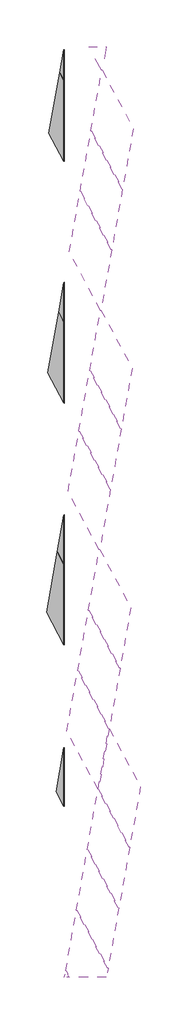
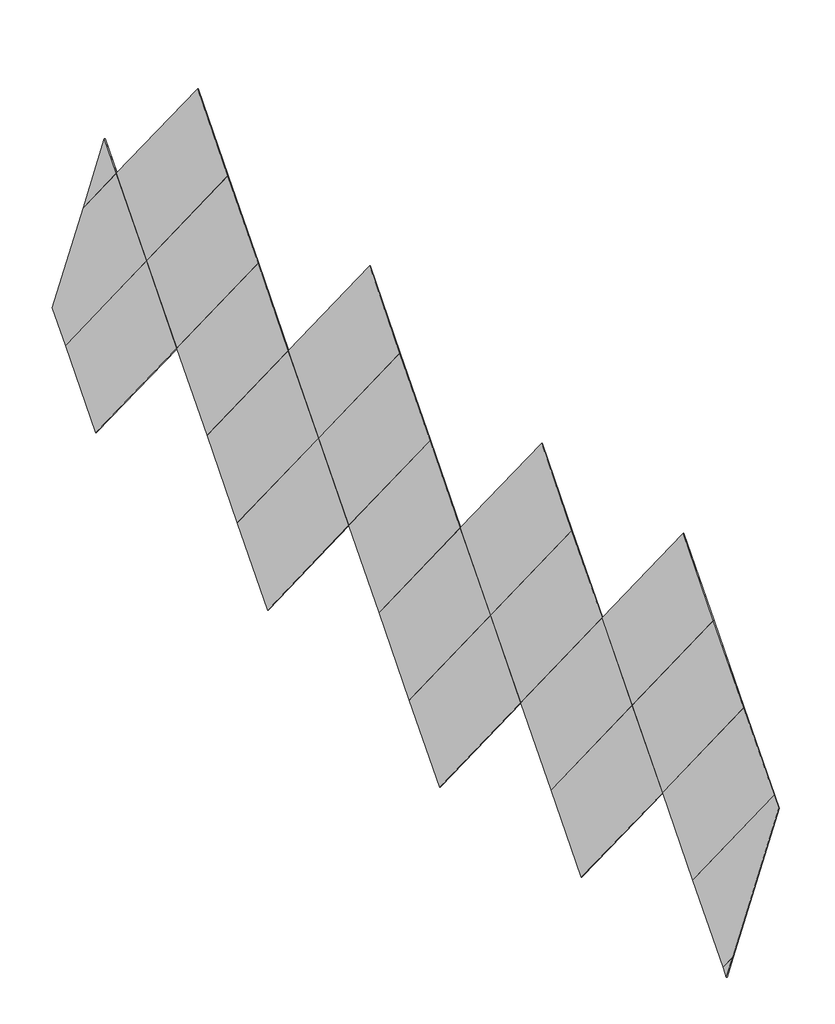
# One storey: 22 plates.
"""IFC4 building model written with IfcOpenShell, lengths in millimetres."""

from ifc_helpers import new_model, si_unit, origin, place, context, project, spatial, transform, mapped, element, save
from components import plate_969d1667, plate_d59a50e6, plate_16fcc1f1, plate_20378150, plate_0b0f9374

model = new_model("IFC4")

# Units and contexts
model_context = context("Model", 3, world=origin())
ifc_project = project(units=[si_unit("LENGTHUNIT", "METRE", prefix="MILLI")], contexts=[model_context])

# Site, building, storey
site = spatial("IfcSite", under=ifc_project)
building = spatial("IfcBuilding", under=site)
storey = spatial("IfcBuildingStorey", under=building, Name="樓層 3", Elevation=7000.0)

# Plates
placement = place(None, origin())
plate_shape = plate_969d1667(model_context)
element("IfcPlate", 1, ObjectType="系統嵌板 : 玻璃 1.0cm", at=placement, inside=storey, context=model_context, shape_type="MappedRepresentation", body=[
    mapped(plate_shape, transform((-9381.9771023, 8462.1951309, 9629.4472275), x_axis=(0.15450849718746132, 0.8660254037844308, 0.47552825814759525), y_axis=(0.9510565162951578, 0.0, -0.309016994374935), z_axis=(-0.26761656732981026, 0.5000000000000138, -0.8236391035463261))),
])
element("IfcPlate", 2, ObjectType="系統嵌板 : 玻璃 1.0cm", at=placement, inside=storey, context=model_context, shape_type="MappedRepresentation", body=[
    mapped(plate_shape, transform((-9408.2239213, 3315.0808139, 9548.6678247), x_axis=(0.15450849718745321, 0.8660254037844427, 0.4755282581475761), y_axis=(0.9510565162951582, 0.0, -0.30901699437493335), z_axis=(-0.26761656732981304, 0.49999999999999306, -0.8236391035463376))),
])
element("IfcPlate", 3, ObjectType="系統嵌板 : 玻璃 1.0cm", at=placement, inside=storey, context=model_context, shape_type="MappedRepresentation", body=[
    mapped(plate_shape, transform((-9176.4611755, 4614.1189196, 10261.9602119), x_axis=(0.1545084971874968, 0.8660254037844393, 0.4755282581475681), y_axis=(0.9510565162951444, 0.0, -0.3090169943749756), z_axis=(-0.26761656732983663, 0.4999999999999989, -0.8236391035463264))),
])
element("IfcPlate", 4, ObjectType="系統嵌板 : 玻璃 1.0cm", at=placement, inside=storey, context=model_context, shape_type="MappedRepresentation", body=[
    mapped(plate_shape, transform((-8944.6984298, 5913.1570252, 10975.2525991), x_axis=(0.1545084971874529, 0.8660254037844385, 0.4755282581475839), y_axis=(0.9510565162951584, 0.0, -0.30901699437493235), z_axis=(-0.2676165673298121, 0.5000000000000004, -0.8236391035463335))),
])
element("IfcPlate", 5, ObjectType="系統嵌板 : 玻璃 1.0cm", at=placement, inside=storey, context=model_context, shape_type="MappedRepresentation", body=[
    mapped(plate_shape, transform((-8712.935684, 7212.1951309, 11688.5449864), x_axis=(0.15450849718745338, 0.8660254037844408, 0.47552825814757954), y_axis=(0.9510565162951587, 0.0, -0.30901699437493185), z_axis=(-0.2676165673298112, 0.4999999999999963, -0.8236391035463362))),
])
element("IfcPlate", 6, ObjectType="系統嵌板 : 玻璃 1.0cm", at=placement, inside=storey, context=model_context, shape_type="MappedRepresentation", body=[
    mapped(plate_shape, transform((-9434.4707403, -1832.0335031, 9467.8884219), x_axis=(0.15450849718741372, 0.8660254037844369, 0.4755282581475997), y_axis=(0.9510565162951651, 0.0, -0.3090169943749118), z_axis=(-0.267616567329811, 0.5000000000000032, -0.8236391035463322))),
])
element("IfcPlate", 7, ObjectType="系統嵌板 : 玻璃 1.0cm", at=placement, inside=storey, context=model_context, shape_type="MappedRepresentation", body=[
    mapped(plate_shape, transform((-9202.7079946, -532.9953975, 10181.1808091), x_axis=(0.15450849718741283, 0.866025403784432, 0.4755282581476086), y_axis=(0.9510565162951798, 0.0, -0.3090169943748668), z_axis=(-0.26761656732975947, 0.5000000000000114, -0.8236391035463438))),
])
element("IfcPlate", 8, ObjectType="系統嵌板 : 玻璃 1.0cm", at=placement, inside=storey, context=model_context, shape_type="MappedRepresentation", body=[
    mapped(plate_shape, transform((-8970.9452488, 766.0427082, 10894.4731963), x_axis=(0.15450849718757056, 0.8660254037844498, 0.47552825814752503), y_axis=(0.9510565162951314, 0.0, -0.30901699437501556), z_axis=(-0.26761656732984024, 0.49999999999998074, -0.8236391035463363))),
])
element("IfcPlate", 9, ObjectType="系統嵌板 : 玻璃 1.0cm", at=placement, inside=storey, context=model_context, shape_type="MappedRepresentation", body=[
    mapped(plate_shape, transform((-8739.182503, 2065.0808139, 11607.7655836), x_axis=(0.15450849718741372, 0.8660254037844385, 0.4755282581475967), y_axis=(0.951056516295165, 0.0, -0.30901699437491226), z_axis=(-0.2676165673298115, 0.5000000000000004, -0.8236391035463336))),
])
element("IfcPlate", 10, ObjectType="系統嵌板 : 玻璃 1.0cm", at=placement, inside=storey, context=model_context, shape_type="MappedRepresentation", body=[
    mapped(plate_shape, transform((-8507.4197572, 3364.1189196, 12321.0579708), x_axis=(0.1545084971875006, 0.8660254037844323, 0.47552825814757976), y_axis=(0.9510565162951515, 0.0, -0.3090169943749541), z_axis=(-0.2676165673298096, 0.5000000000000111, -0.8236391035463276))),
])
element("IfcPlate", 11, ObjectType="系統嵌板 : 玻璃 1.0cm", at=placement, inside=storey, context=model_context, shape_type="MappedRepresentation", body=[
    mapped(plate_shape, transform((-9228.9548136, -5680.1097145, 10100.4014063), x_axis=(0.15450849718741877, 0.8660254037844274, 0.4755282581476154), y_axis=(0.9510565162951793, 0.0, -0.30901699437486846), z_axis=(-0.26761656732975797, 0.5000000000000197, -0.8236391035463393))),
])
element("IfcPlate", 12, ObjectType="系統嵌板 : 玻璃 1.0cm", at=placement, inside=storey, context=model_context, shape_type="MappedRepresentation", body=[
    mapped(plate_shape, transform((-8997.1920678, -4381.0716088, 10813.6937935), x_axis=(0.15450849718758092, 0.8660254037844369, 0.4755282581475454), y_axis=(0.951056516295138, 0.0, -0.30901699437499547), z_axis=(-0.267616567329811, 0.5000000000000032, -0.823639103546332))),
])
element("IfcPlate", 13, ObjectType="系統嵌板 : 玻璃 1.0cm", at=placement, inside=storey, context=model_context, shape_type="MappedRepresentation", body=[
    mapped(plate_shape, transform((-8765.429322, -3082.0335031, 11526.9861808), x_axis=(0.1545084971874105, 0.8660254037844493, 0.4755282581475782), y_axis=(0.951056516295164, 0.0, -0.3090169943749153), z_axis=(-0.2676165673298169, 0.4999999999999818, -0.8236391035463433))),
])
element("IfcPlate", 14, ObjectType="系統嵌板 : 玻璃 1.0cm", at=placement, inside=storey, context=model_context, shape_type="MappedRepresentation", body=[
    mapped(plate_shape, transform((-8533.6665762, -1782.9953975, 12240.278568), x_axis=(0.1545084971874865, 0.8660254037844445, 0.47552825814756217), y_axis=(0.9510565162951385, 0.0, -0.30901699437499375), z_axis=(-0.2676165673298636, 0.49999999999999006, -0.8236391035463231))),
])
element("IfcPlate", 15, ObjectType="系統嵌板 : 玻璃 1.0cm", at=placement, inside=storey, context=model_context, shape_type="MappedRepresentation", body=[
    mapped(plate_shape, transform((-8791.676141, -8229.1478202, 11446.206778), x_axis=(0.15450849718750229, 0.8660254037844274, 0.47552825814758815), y_axis=(0.9510565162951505, 0.0, -0.3090169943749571), z_axis=(-0.26761656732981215, 0.5000000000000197, -0.8236391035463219))),
])
element("IfcPlate", 16, ObjectType="系統嵌板 : 玻璃 1.0cm", at=placement, inside=storey, context=model_context, shape_type="MappedRepresentation", body=[
    mapped(plate_shape, transform((-8559.9133953, -6930.1097145, 12159.4991652), x_axis=(0.15450849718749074, 0.8660254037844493, 0.4755282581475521), y_axis=(0.9510565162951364, 0.0, -0.3090169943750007), z_axis=(-0.26761656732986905, 0.49999999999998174, -0.8236391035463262))),
])
element("IfcPlate", 17, ObjectType="系統嵌板 : 玻璃 1.0cm", at=placement, inside=storey, context=model_context, shape_type="MappedRepresentation", body=[
    mapped(plate_shape, transform((-8328.1506495, -5631.0716088, 12872.7915524), x_axis=(0.15450849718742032, 0.8660254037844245, 0.4755282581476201), y_axis=(0.9510565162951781, 0.0, -0.3090169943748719), z_axis=(-0.2676165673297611, 0.5000000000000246, -0.8236391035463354))),
])
element("IfcPlate", 18, ObjectType="系統嵌板 : 玻璃 1.0cm", at=placement, inside=storey, context=model_context, shape_type="MappedRepresentation", body=[
    mapped(plate_shape, transform((-8481.1729382, 8511.2332366, 12401.8373736), x_axis=(0.15450849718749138, 0.8660254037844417, 0.4755282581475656), y_axis=(0.951056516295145, 0.0, -0.30901699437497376), z_axis=(-0.2676165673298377, 0.49999999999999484, -0.8236391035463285))),
])
plate_2_shape = plate_d59a50e6(model_context)
element("IfcPlate", 19, ObjectType="系統嵌板 : 玻璃 1.0cm", at=placement, inside=storey, context=model_context, shape_type="MappedRepresentation", body=[
    mapped(plate_2_shape, transform((-9742.7446305, -9148.3764542, 8519.1189453), x_axis=(0.1545084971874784, 0.8660254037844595, 0.47552825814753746), y_axis=(0.9510565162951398, 0.0, -0.30901699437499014), z_axis=(-0.2676165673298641, 0.4999999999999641, -0.8236391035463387))),
])
plate_3_shape = plate_16fcc1f1(model_context)
element("IfcPlate", 20, ObjectType="系統嵌板 : 玻璃 1.0cm", at=placement, inside=storey, context=model_context, shape_type="MappedRepresentation", body=[
    mapped(plate_3_shape, transform((-9023.4388868, -9528.1859258, 10732.9143907), x_axis=(0.15450849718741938, 0.866025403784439, 0.4755282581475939), y_axis=(0.9510565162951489, 0.0, -0.3090169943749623), z_axis=(-0.26761656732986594, 0.49999999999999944, -0.8236391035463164))),
])
plate_4_shape = plate_20378150(model_context)
element("IfcPlate", 21, ObjectType="系統嵌板 : 玻璃 1.0cm", at=placement, inside=storey, context=model_context, shape_type="MappedRepresentation", body=[
    mapped(plate_4_shape, transform((-9150.2143565, 9761.2332366, 10342.7396147), x_axis=(0.15450849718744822, 0.8660254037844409, 0.47552825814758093), y_axis=(0.9510565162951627, 0.0, -0.3090169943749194), z_axis=(-0.2676165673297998, 0.49999999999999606, -0.8236391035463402))),
])
plate_5_shape = plate_0b0f9374(model_context)
element("IfcPlate", 22, ObjectType="系統嵌板 : 玻璃 1.0cm", at=placement, inside=storey, context=model_context, shape_type="MappedRepresentation", body=[
    mapped(plate_5_shape, transform((-8988.4431281, 10667.9664969, 10840.6202611), x_axis=(0.1545084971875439, 0.8660254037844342, 0.4755282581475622), y_axis=(0.9510565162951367, 0.0, -0.30901699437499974), z_axis=(-0.26761656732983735, 0.5000000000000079, -0.8236391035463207))),
])

save(model, "model.ifc")
